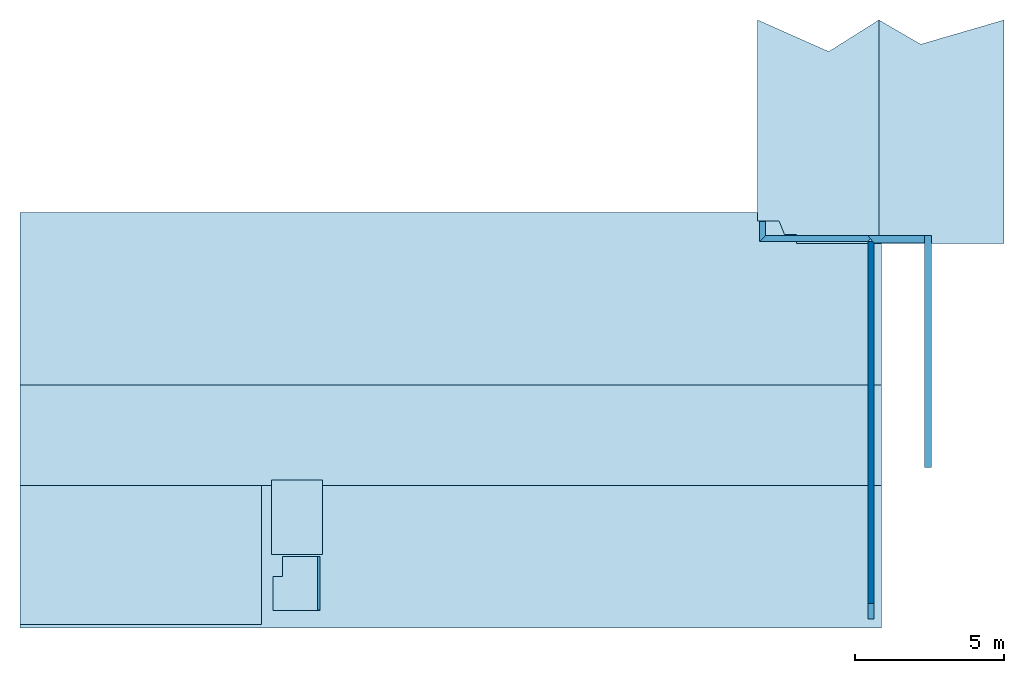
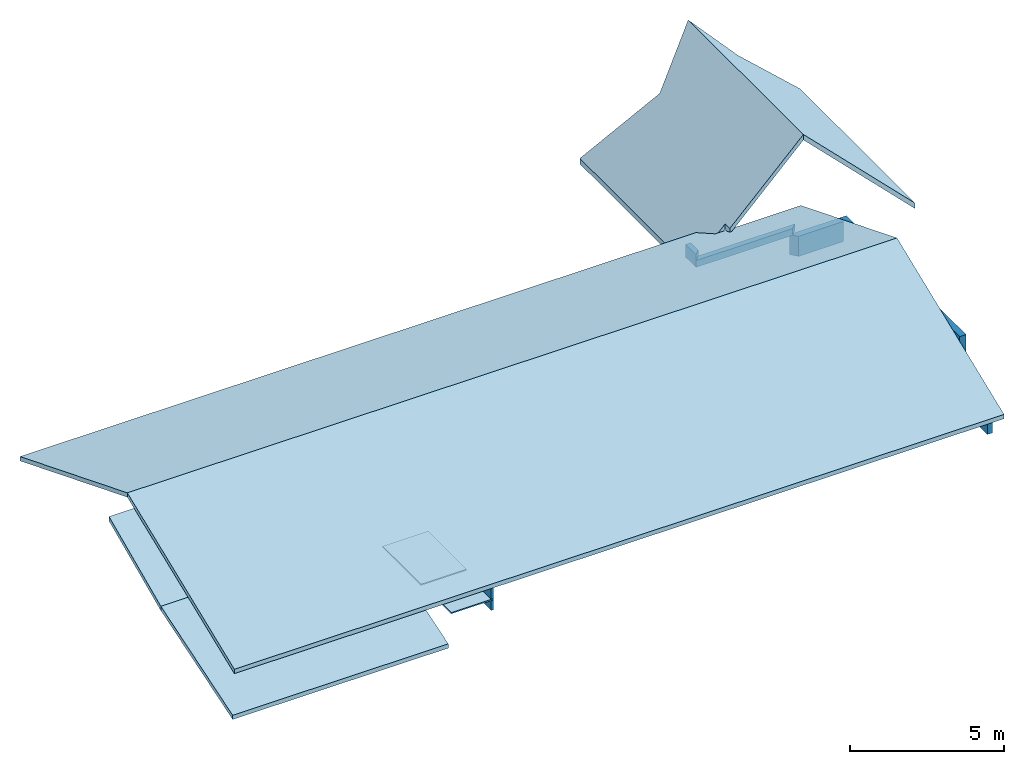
# One storey: 8 slabs, 6 walls.
"""IFC2X3 building model written with IfcOpenShell, lengths in metres."""

from ifc_helpers import new_model, entity, si_unit, converted_unit, derived_unit, money_unit, direction, frame, origin_with_axes, place, context, subcontext, project, spatial, polyline, outline, extrude, clip, halfspace, bounded_halfspace, material, layer, layer_set, layer_usage, type_object, element, save


model = new_model("IFC2X3")

# Units and contexts
model_context = context("Model", 3, precision=1e-05, world=origin_with_axes(), true_north=direction((0.0, 1.0)))
body_context = subcontext(model_context, "Body", "Model", "MODEL_VIEW")
ifc_project = project(units=[si_unit("LENGTHUNIT", "METRE"), si_unit("AREAUNIT", "SQUARE_METRE"), si_unit("VOLUMEUNIT", "CUBIC_METRE"), converted_unit("PLANEANGLEUNIT", "DEGREE", entity("IfcPlaneAngleMeasure", 0.0174532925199), si_unit("PLANEANGLEUNIT", "RADIAN"), dimensions=[0, 0, 0, 0, 0, 0, 0]), money_unit("CHF"), converted_unit("TIMEUNIT", "Year", entity("IfcTimeMeasure", 31556926.0), si_unit("TIMEUNIT", "SECOND"), dimensions=[0, 0, 1, 0, 0, 0, 0]), si_unit("MASSUNIT", "GRAM", prefix="KILO"), si_unit("THERMODYNAMICTEMPERATUREUNIT", "DEGREE_CELSIUS"), si_unit("LUMINOUSINTENSITYUNIT", "LUMEN"), si_unit("ENERGYUNIT", "JOULE", prefix="MEGA"), derived_unit("THERMALCONDUCTANCEUNIT", [(si_unit("POWERUNIT", "WATT"), 1), (si_unit("LENGTHUNIT", "METRE"), -1), (si_unit("THERMODYNAMICTEMPERATUREUNIT", "KELVIN"), -1)]), derived_unit("SPECIFICHEATCAPACITYUNIT", [(si_unit("ENERGYUNIT", "JOULE"), 1), (si_unit("MASSUNIT", "GRAM", prefix="KILO"), -1), (si_unit("THERMODYNAMICTEMPERATUREUNIT", "KELVIN"), -1)]), derived_unit("MASSDENSITYUNIT", [(si_unit("MASSUNIT", "GRAM", prefix="KILO"), 1), (si_unit("VOLUMEUNIT", "CUBIC_METRE"), -1)])], contexts=[model_context])

# Site, building, storey
site_placement = place(None, origin_with_axes())
site = spatial("IfcSite", under=ifc_project, at=site_placement, Name="Site", CompositionType="ELEMENT")
building_placement = place(site_placement, origin_with_axes())
building = spatial("IfcBuilding", under=site, at=building_placement, Name="Bâtiment", CompositionType="ELEMENT")
storey_placement = place(building_placement, frame((0.0, 0.0, 4.0), z_axis=(0.0, 0.0, 1.0), x_axis=(1.0, 0.0, 0.0)))
storey = spatial("IfcBuildingStorey", under=building, at=storey_placement, Name="PLAFOND", CompositionType="ELEMENT", Elevation=4.0)

# Slabs
ifc_material_1 = material(Name="Sans Trame 1167258944")
ifc_layer_1 = layer(ifc_material_1, 0.05, ventilated="UNKNOWN")
ifc_layer_set_1 = layer_set([ifc_layer_1], Name="Sans Trame 1167258944 0.05")
ifc_layer_usage_1 = layer_usage(ifc_layer_set_1, "AXIS3", "NEGATIVE", 0.05)
slab_type_1 = type_object("IfcSlabType", Name="Sans Trame 1167258944 50", PredefinedType="FLOOR")
slab_1_placement = place(storey_placement, frame((1677.29350684, 182.044203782, -1.03), z_axis=(0.0, 0.0, 1.0), x_axis=(1.0, 0.0, 0.0)))
element("IfcSlab", 1, at=slab_1_placement, inside=storey, type_object=slab_type_1, material=ifc_layer_usage_1, Name="Dalle-13", PredefinedType="FLOOR", context=body_context, shape_type="SweptSolid", body=[
    extrude(outline(polyline([(0.0, 0.0), (-1.706009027, 0.0), (-1.706009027, -2.4941618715), (0.0, -2.4941618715), (0.0, 0.0)])), origin_with_axes(), (0.0, 0.0, 1.0), 0.05),
])
ifc_layer_usage_2 = layer_usage(ifc_layer_set_1, "AXIS3", "NEGATIVE", 0.05)
slab_2_placement = place(storey_placement, frame((1675.63914883, 178.804203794, -1.03), z_axis=(0.0, 0.0, 1.0), x_axis=(1.0, 0.0, 0.0)))
element("IfcSlab", 2, at=slab_2_placement, inside=storey, type_object=slab_type_1, material=ifc_layer_usage_2, Name="Dalle-13", PredefinedType="FLOOR", context=body_context, shape_type="SweptSolid", body=[
    extrude(outline(polyline([(0.0, 0.0), (0.0, -1.13000001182), (1.57000000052, -1.13000001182), (1.57000000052, 0.669999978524), (1.23212516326, 0.669999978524), (1.23212516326, 0.664838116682), (0.320000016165, 0.664838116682), (0.320000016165, 0.0), (0.0, 0.0)])), origin_with_axes(), (0.0, 0.0, 1.0), 0.05),
])
ifc_material_2 = material(Name="Sans Trame 289679044")
ifc_layer_2 = layer(ifc_material_2, 0.05, ventilated="UNKNOWN")
ifc_material_3 = material(Name="Lame d'air 294416412")
ifc_layer_3 = layer(ifc_material_3, 0.1, ventilated="UNKNOWN")
ifc_layer_4 = layer(ifc_material_1, 0.01, ventilated="UNKNOWN")
ifc_layer_set_2 = layer_set([ifc_layer_2, ifc_layer_3, ifc_layer_4], Name="SDF TOITURE 16")
ifc_layer_usage_3 = layer_usage(ifc_layer_set_2, "AXIS3", "NEGATIVE", 0.16)
slab_type_2 = type_object("IfcSlabType", Name="SDF TOITURE 16 160", PredefinedType="ROOF")
slab_3_placement = place(storey_placement, frame((1668.46191394, 190.691987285, 0.0390583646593), z_axis=(0.0, 0.0, 1.0), x_axis=(1.0, 0.0, 0.0)))
element("IfcSlab", 3, at=slab_3_placement, inside=storey, type_object=slab_type_2, material=ifc_layer_usage_3, Name="Toit-02", PredefinedType="ROOF", context=body_context, shape_type="SweptSolid", body=[
    extrude(outline(polyline([(-1.2946239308, -7.18051992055), (27.5453760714, -7.18051992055), (27.5453760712, -0.465219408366), (24.3346179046, -0.465219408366), (24.0397571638, 0.333899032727), (24.0352448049, 0.330729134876), (-1.29462392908, 0.323109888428), (-1.2946239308, -7.18051992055)])), frame((0.0, 0.0, 0.0), z_axis=(0.0, 0.371390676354, 0.928476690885), x_axis=(1.0, 0.0, 0.0)), (0.0, -0.371390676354, 0.928476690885), 0.172325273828),
])
ifc_layer_usage_4 = layer_usage(ifc_layer_set_2, "AXIS3", "NEGATIVE", 0.16)
slab_4_placement = place(storey_placement, frame((1670.74064511, 181.850041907, -0.473072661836), z_axis=(0.0, 0.0, 1.0), x_axis=(-1.0, 0.0, 0.0)))
element("IfcSlab", 4, at=slab_4_placement, inside=storey, type_object=slab_type_2, material=ifc_layer_usage_4, Name="Toit-02", PredefinedType="ROOF", context=body_context, shape_type="SweptSolid", body=[
    extrude(outline(polyline([(3.57335510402, 0.0), (-25.2666448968, 0.0), (-25.2666448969, -3.69007592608), (3.57335510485, -3.69007592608), (3.57335510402, 0.0)])), frame((0.0, 0.0, 0.0), z_axis=(0.0, 0.410400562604, 0.911905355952), x_axis=(1.0, 0.0, 0.0)), (0.0, -0.410400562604, 0.911905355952), 0.175456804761),
])
ifc_layer_usage_5 = layer_usage(ifc_layer_set_2, "AXIS3", "NEGATIVE", 0.16)
slab_5_placement = place(storey_placement, frame((1670.75206081, 177.38004191, 0.0478365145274), z_axis=(0.0, 0.0, 1.0), x_axis=(-1.0, 0.0, 0.0)))
element("IfcSlab", 5, at=slab_5_placement, inside=storey, type_object=slab_type_2, material=ifc_layer_usage_5, Name="Toit-02", PredefinedType="ROOF", context=body_context, shape_type="SweptSolid", body=[
    extrude(outline(polyline([(3.58477079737, 0.323109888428), (-25.2552292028, 0.323109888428), (-25.255229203, -7.15688402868), (3.58477079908, -7.15688402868), (3.58477079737, 0.323109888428)])), frame((0.0, 0.0, 0.0), z_axis=(0.0, 0.371390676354, 0.928476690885), x_axis=(1.0, 0.0, 0.0)), (0.0, -0.371390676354, 0.928476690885), 0.172325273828),
])
ifc_layer_usage_6 = layer_usage(ifc_layer_set_2, "AXIS3", "NEGATIVE", 0.16)
slab_6_placement = place(storey_placement, frame((1667.41729001, 177.380041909, -1.89600000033), z_axis=(0.0, 0.0, 1.0), x_axis=(1.0, 0.0, 0.0)))
element("IfcSlab", 6, at=slab_6_placement, inside=storey, type_object=slab_type_2, material=ifc_layer_usage_6, Name="Toit-02", PredefinedType="ROOF", context=body_context, shape_type="SweptSolid", body=[
    extrude(outline(polyline([(7.83, 4.69328713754), (-0.250000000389, 4.69328713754), (-0.250000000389, -0.199490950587), (7.83, -0.199490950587), (7.83, 4.69328713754)])), frame((0.0, 0.0, 0.0), z_axis=(0.0, -0.304775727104, 0.952424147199), x_axis=(1.0, 0.0, 0.0)), (0.0, 0.304775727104, 0.952424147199), 0.16799238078),
])
ifc_layer_5 = layer(ifc_material_1, 0.153252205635, ventilated="UNKNOWN")
ifc_layer_set_3 = layer_set([ifc_layer_5], Name="Sans Trame 1167258944 0.153252")
ifc_layer_usage_7 = layer_usage(ifc_layer_set_3, "AXIS3", "NEGATIVE", 0.153252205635)
slab_type_3 = type_object("IfcSlabType", Name="Sans Trame 1167258944 153", PredefinedType="ROOF")
slab_7_placement = place(storey_placement, frame((1691.93728998, 197.440041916, -0.8), z_axis=(0.0, 0.0, 1.0), x_axis=(0.0, -1.0, 0.0)))
element("IfcSlab", 7, at=slab_7_placement, inside=storey, type_object=slab_type_3, material=ifc_layer_usage_7, Name="Toit-05", PredefinedType="ROOF", context=body_context, shape_type="SweptSolid", body=[
    extrude(outline(polyline([(5.83249005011e-09, 5.64271206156), (1.05852747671, 3.26843366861), (5.83249005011e-09, -0.1), (6.73070755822, -0.1), (6.73070755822, 0.917561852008), (7.17999994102, 1.1700721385), (7.17999994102, 1.74228690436), (7.48000006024, 1.74228690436), (7.48000006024, 5.64271206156), (5.83249005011e-09, 5.64271206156)])), frame((0.0, 0.0, 0.0), z_axis=(0.0, -0.707106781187, 0.707106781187), x_axis=(1.0, 0.0, 0.0)), (0.0, 0.707106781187, 0.707106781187), 0.216731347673),
])
ifc_layer_usage_8 = layer_usage(ifc_layer_set_3, "AXIS3", "NEGATIVE", 0.153252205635)
slab_8_placement = place(storey_placement, frame((1699.91728997, 190.106789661, -0.8), z_axis=(0.0, 0.0, 1.0), x_axis=(0.0, 1.0, 0.0)))
element("IfcSlab", 8, at=slab_8_placement, inside=storey, type_object=slab_type_3, material=ifc_layer_usage_8, Name="Toit-05", PredefinedType="ROOF", context=body_context, shape_type="SweptSolid", body=[
    extrude(outline(polyline([(-0.146747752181, 5.64271206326), (-0.146747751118, -0.282842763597), (7.33325223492, -0.282842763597), (6.51978312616, 3.660175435), (7.33325224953, 5.64271206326), (-0.146747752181, 5.64271206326)])), frame((0.0, 0.0, 0.0), z_axis=(0.0, -0.707106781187, 0.707106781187), x_axis=(1.0, 0.0, 0.0)), (0.0, 0.707106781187, 0.707106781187), 0.216731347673),
])

# Walls
ifc_material_4 = material(Name="Diagonales 1167258944")
ifc_layer_6 = layer(ifc_material_4, 0.2, ventilated="UNKNOWN")
ifc_layer_set_4 = layer_set([ifc_layer_6], Name="Diagonales 1167258944 0.2")
ifc_layer_usage_9 = layer_usage(ifc_layer_set_4, "AXIS2", "NEGATIVE", 0.0)
wall_type_1 = type_object("IfcWallType", Name="Diagonales 1167258944 200", PredefinedType="NOTDEFINED")
wall_1_placement = place(storey_placement, frame((1695.75729001, 190.22004191, -0.721767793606), z_axis=(0.0, 0.0, 1.0), x_axis=(0.0, -1.0, 0.0)))
element("IfcWallStandardCase", 9, at=wall_1_placement, inside=storey, type_object=wall_type_1, material=ifc_layer_usage_9, Name="Mur-004", context=body_context, shape_type="Clipping", body=[
    clip(clip(clip(clip(clip(clip(clip(clip(extrude(outline(polyline([(0.2, -0.2), (12.84, -0.2), (12.84, 0.0), (0.2, 0.0), (0.2, -0.2)])), origin_with_axes(), (0.0, 0.0, 1.0), 3.88706823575), bounded_halfspace(frame((2.00131444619, 0.0, 5.00328611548), z_axis=(-0.371390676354, 0.0, -0.928476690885), x_axis=(0.0, 1.0, 0.0)), True, origin_with_axes(), polyline([(6.17288211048, -0.21), (13.14001, -0.21), (13.14001, 0.01), (6.17288211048, 0.01), (6.17288211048, -0.21)]))), bounded_halfspace(frame((2.01266802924, 0.0, 5.03167007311), z_axis=(-0.371390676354, 0.0, -0.928476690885), x_axis=(0.0, 1.0, 0.0)), True, origin_with_axes(), polyline([(6.17288211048, -0.21), (13.3328921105, -0.21), (13.3328921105, 0.01), (6.17288211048, 0.01), (6.17288211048, -0.21)]))), bounded_halfspace(frame((2.42874750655, 0.0, 5.39664917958), z_axis=(-0.410400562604, 0.0, -0.911905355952), x_axis=(0.0, 1.0, 0.0)), True, origin_with_axes(), polyline([(6.17288211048, -0.21), (13.3328921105, -0.21), (13.3328921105, 0.01), (6.17288211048, 0.01), (6.17288211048, -0.21)]))), bounded_halfspace(frame((-0.290163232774, 0.0, 0.725408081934), z_axis=(0.371390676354, 0.0, -0.928476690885), x_axis=(0.0, 1.0, 0.0)), True, origin_with_axes(), polyline([(0.253252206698, -0.21), (6.195, -0.21), (6.195, 0.01), (0.253252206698, 0.01), (0.253252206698, -0.21)]))), bounded_halfspace(frame((-0.290163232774, 0.0, 0.725408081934), z_axis=(0.371390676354, 0.0, -0.928476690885), x_axis=(0.0, 1.0, 0.0)), True, origin_with_axes(), polyline([(-0.0400099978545, -0.21), (6.195, -0.21), (6.195, 0.01), (-0.0400099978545, 0.01), (-0.0400099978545, -0.21)]))), bounded_halfspace(frame((-0.298450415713, 0.0, 0.746126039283), z_axis=(0.371390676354, 0.0, -0.928476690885), x_axis=(0.0, 1.0, 0.0)), True, origin_with_axes(), polyline([(0.253252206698, -0.21), (6.21760146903, -0.21), (6.21760146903, 0.01), (0.253252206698, 0.01), (0.253252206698, -0.21)]))), bounded_halfspace(frame((-0.310914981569, 0.0, 0.777287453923), z_axis=(0.371390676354, 0.0, -0.928476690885), x_axis=(0.0, 1.0, 0.0)), True, origin_with_axes(), polyline([(0.24806969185, -0.21), (6.16482748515, -0.21), (6.16482748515, 0.01), (0.24806969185, 0.01), (0.24806969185, -0.21)]))), bounded_halfspace(frame((-0.350809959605, 0.0, 0.779577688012), z_axis=(0.410364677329, 0.0, -0.911921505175), x_axis=(0.0, 1.0, 0.0)), True, origin_with_axes(), polyline([(0.24806969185, -0.21), (6.16482748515, -0.21), (6.16482748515, 0.01), (0.24806969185, 0.01), (0.24806969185, -0.21)]))),
])
ifc_material_5 = material(Name="50 % 1167783752")
ifc_layer_7 = layer(ifc_material_5, 0.2, ventilated="UNKNOWN")
ifc_layer_set_5 = layer_set([ifc_layer_7], Name="50 % 1167783752 0.2")
ifc_layer_usage_10 = layer_usage(ifc_layer_set_5, "AXIS2", "POSITIVE", 0.0)
wall_type_2 = type_object("IfcWallType", Name="50 % 1167783752 200", PredefinedType="NOTDEFINED")
wall_2_placement = place(storey_placement, frame((1695.75729001, 190.22004191, -0.499999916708), z_axis=(0.0, 0.0, 1.0), x_axis=(-1.0, 0.0, 0.0)))
element("IfcWallStandardCase", 10, at=wall_2_placement, inside=storey, type_object=wall_type_2, material=ifc_layer_usage_10, Name="Mur-004", context=body_context, shape_type="Clipping", body=[
    clip(extrude(outline(polyline([(0.0, 0.0), (3.62000000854, 0.0), (3.82, 0.2), (0.2, 0.2), (0.0, 0.0)])), origin_with_axes(), (0.0, 0.0, 1.0), 0.271353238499), halfspace(frame((0.0, -0.216450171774, 0.541125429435), z_axis=(0.0, 0.371390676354, -0.928476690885), x_axis=(0.0, 0.928476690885, 0.371390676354)), True)),
])
ifc_layer_usage_11 = layer_usage(ifc_layer_set_5, "AXIS2", "NEGATIVE", 0.0)
wall_3_placement = place(storey_placement, frame((1691.93729, 190.22004191, -0.499999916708), z_axis=(0.0, 0.0, 1.0), x_axis=(-4.27047944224e-08, 1.0, 0.0)))
element("IfcWallStandardCase", 11, at=wall_3_placement, inside=storey, type_object=wall_type_2, material=ifc_layer_usage_11, Name="Mur-005", context=body_context, shape_type="Clipping", body=[
    clip(extrude(outline(polyline([(-8.54095105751e-09, -0.2), (0.480000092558, -0.2), (0.480000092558, 0.0), (-0.2, 0.0), (-8.54095105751e-09, -0.2)])), origin_with_axes(), (0.0, 0.0, 1.0), 0.499999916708), halfspace(frame((0.290163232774, -1.23913578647e-08, 0.725408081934), z_axis=(-0.371390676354, 1.58601582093e-08, -0.928476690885), x_axis=(0.0, 1.0, 1.70819131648e-08)), True)),
])
ifc_material_6 = material(Name="Plâtre lissé 291446788")
ifc_layer_8 = layer(ifc_material_6, 0.018, ventilated="UNKNOWN")
ifc_material_7 = material(Name="Isolation laine de pierre 307970822")
ifc_layer_9 = layer(ifc_material_7, 0.045, ventilated="UNKNOWN")
ifc_layer_10 = layer(ifc_material_6, 0.018, ventilated="UNKNOWN")
ifc_layer_set_6 = layer_set([ifc_layer_8, ifc_layer_9, ifc_layer_10], Name="CLOISON 10")
ifc_layer_usage_12 = layer_usage(ifc_layer_set_6, "AXIS2", "POSITIVE", 0.0)
wall_type_3 = type_object("IfcWallType", Name="CLOISON 10 81", PredefinedType="NOTDEFINED")
wall_4_placement = place(storey_placement, frame((1677.21855457, 177.682416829, -1.43), z_axis=(0.0, 0.0, 1.0), x_axis=(0.0, 1.0, 0.0)))
element("IfcWallStandardCase", 12, at=wall_4_placement, inside=storey, type_object=wall_type_3, material=ifc_layer_usage_12, Name="Mur-010", context=body_context, shape_type="SweptSolid", body=[
    extrude(outline(polyline([(0.0, 0.0), (1.79762508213, 0.0), (1.79762508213, 0.081), (0.0, 0.081), (0.0, 0.0)])), origin_with_axes(), (0.0, 0.0, 1.0), 0.93),
])
ifc_layer_11 = layer(ifc_material_1, 0.02, ventilated="UNKNOWN")
ifc_layer_12 = layer(ifc_material_4, 0.2, ventilated="UNKNOWN")
ifc_layer_13 = layer(ifc_material_1, 0.02, ventilated="UNKNOWN")
ifc_layer_set_7 = layer_set([ifc_layer_11, ifc_layer_12, ifc_layer_13], Name="Mur: béton + enduit")
ifc_layer_usage_13 = layer_usage(ifc_layer_set_7, "AXIS2", "NEGATIVE", 0.0)
wall_type_4 = type_object("IfcWallType", Name="Mur: béton + enduit 240", PredefinedType="NOTDEFINED")
wall_5_placement = place(storey_placement, frame((1695.75729001, 190.22004191, -1.38), z_axis=(0.0, 0.0, 1.0), x_axis=(1.0, 0.0, 0.0)))
element("IfcWallStandardCase", 13, at=wall_5_placement, inside=storey, type_object=wall_type_4, material=ifc_layer_usage_13, Name="Mur-010", context=body_context, shape_type="SweptSolid", body=[
    extrude(outline(polyline([(0.0, -0.24), (1.69, -0.24), (1.69, 0.0), (-0.2, 0.0), (0.0, -0.24)])), origin_with_axes(), (0.0, 0.0, 1.0), 0.8),
])
ifc_layer_usage_14 = layer_usage(ifc_layer_set_7, "AXIS2", "POSITIVE", 0.0)
wall_6_placement = place(storey_placement, frame((1697.68729001, 182.45004191, -1.38), z_axis=(0.0, 0.0, 1.0), x_axis=(0.0, 1.0, 0.0)))
element("IfcWallStandardCase", 14, at=wall_6_placement, inside=storey, type_object=wall_type_4, material=ifc_layer_usage_14, Name="Mur-010", context=body_context, shape_type="SweptSolid", body=[
    extrude(outline(polyline([(0.0, 0.0), (7.77, 0.0), (7.77, 0.24), (0.0, 0.24), (0.0, 0.0)])), origin_with_axes(), (0.0, 0.0, 1.0), 0.8),
])

save(model, "model.ifc")
